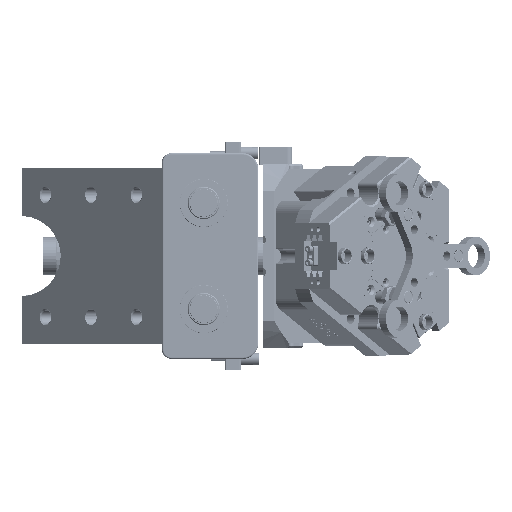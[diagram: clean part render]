
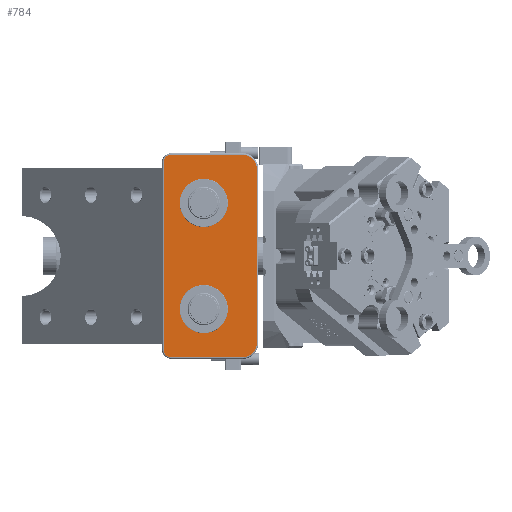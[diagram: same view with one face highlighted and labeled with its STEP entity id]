
A CAD part, left-side view. The second image highlights one B-rep face of the part: STEP entity #784.
In plain terms, the highlighted planar face has unit normal (-1, 0, 0) as drawn and (0, -1, 0) by its records, which use the part's own axes.
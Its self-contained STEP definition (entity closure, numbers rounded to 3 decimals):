
#618 = CIRCLE ( 'NONE', #10359, 9.25 ) ;
#784 = ADVANCED_FACE ( 'NONE', ( #68631, #60555, #48480 ), #72237, .T. ) ;
#1271 = DIRECTION ( 'NONE',  ( 0., 0., -1. ) ) ;
#1536 = AXIS2_PLACEMENT_3D ( 'NONE', #102858, #51679, #1271 ) ;
#2298 = LINE ( 'NONE', #12773, #94531 ) ;
#2662 = CARTESIAN_POINT ( 'NONE',  ( -33., 0., 4. ) ) ;
#3381 = DIRECTION ( 'NONE',  ( 0., -1., 0. ) ) ;
#5032 = AXIS2_PLACEMENT_3D ( 'NONE', #2662, #3381, #80381 ) ;
#5683 = CARTESIAN_POINT ( 'NONE',  ( 58., 0., 24. ) ) ;
#6002 = CARTESIAN_POINT ( 'NONE',  ( -54., 0., -20. ) ) ;
#9358 = CARTESIAN_POINT ( 'NONE',  ( 58., 0., 29. ) ) ;
#9387 = AXIS2_PLACEMENT_3D ( 'NONE', #89140, #45787, #97355 ) ;
#10359 = AXIS2_PLACEMENT_3D ( 'NONE', #97809, #88163, #106825 ) ;
#12242 = ORIENTED_EDGE ( 'NONE', *, *, #24509, .F. ) ;
#12773 = CARTESIAN_POINT ( 'NONE',  ( 63., 0., 24. ) ) ;
#13001 = ORIENTED_EDGE ( 'NONE', *, *, #96869, .F. ) ;
#13235 = CARTESIAN_POINT ( 'NONE',  ( -54., 0., -29. ) ) ;
#14054 = EDGE_CURVE ( 'NONE', #32267, #90530, #31531, .T. ) ;
#18509 = VECTOR ( 'NONE', #26104, 1000. ) ;
#21263 = ORIENTED_EDGE ( 'NONE', *, *, #75825, .T. ) ;
#22146 = CARTESIAN_POINT ( 'NONE',  ( 0., 0., -29. ) ) ;
#22735 = CARTESIAN_POINT ( 'NONE',  ( -33., 0., 4. ) ) ;
#23212 = DIRECTION ( 'NONE',  ( 0., 0., -1. ) ) ;
#24191 = EDGE_LOOP ( 'NONE', ( #54089, #21263, #32059, #81506, #97200, #60020, #102775, #91470 ) ) ;
#24509 = EDGE_CURVE ( 'NONE', #107817, #55423, #26430, .T. ) ;
#25443 = CIRCLE ( 'NONE', #37482, 5. ) ;
#26104 = DIRECTION ( 'NONE',  ( -1., 0., 0. ) ) ;
#26430 = CIRCLE ( 'NONE', #1536, 9.25 ) ;
#26623 = LINE ( 'NONE', #22146, #46616 ) ;
#27574 = CARTESIAN_POINT ( 'NONE',  ( -63., 0., 0. ) ) ;
#31393 = DIRECTION ( 'NONE',  ( 0., 0., -1. ) ) ;
#31531 = CIRCLE ( 'NONE', #88021, 9. ) ;
#32059 = ORIENTED_EDGE ( 'NONE', *, *, #36820, .T. ) ;
#32267 = VERTEX_POINT ( 'NONE', #101487 ) ;
#32920 = AXIS2_PLACEMENT_3D ( 'NONE', #89407, #49745, #32993 ) ;
#32993 = DIRECTION ( 'NONE',  ( 0., 0., -1. ) ) ;
#36820 = EDGE_CURVE ( 'NONE', #38975, #32267, #47558, .T. ) ;
#37482 = AXIS2_PLACEMENT_3D ( 'NONE', #81335, #64129, #72028 ) ;
#37744 = VERTEX_POINT ( 'NONE', #110374 ) ;
#37858 = DIRECTION ( 'NONE',  ( 0., 0., 1. ) ) ;
#38975 = VERTEX_POINT ( 'NONE', #103628 ) ;
#40005 = DIRECTION ( 'NONE',  ( 0., -1., 0. ) ) ;
#45582 = EDGE_CURVE ( 'NONE', #71399, #46023, #90638, .T. ) ;
#45787 = DIRECTION ( 'NONE',  ( 0., -1., 0. ) ) ;
#46023 = VERTEX_POINT ( 'NONE', #106013 ) ;
#46411 = VERTEX_POINT ( 'NONE', #67485 ) ;
#46616 = VECTOR ( 'NONE', #81985, 1000. ) ;
#46645 = EDGE_CURVE ( 'NONE', #109567, #46411, #2298, .T. ) ;
#47558 = LINE ( 'NONE', #27574, #74336 ) ;
#47696 = EDGE_CURVE ( 'NONE', #37744, #109567, #78329, .T. ) ;
#48480 = FACE_BOUND ( 'NONE', #103026, .T. ) ;
#49745 = DIRECTION ( 'NONE',  ( 0., -1., 0. ) ) ;
#51679 = DIRECTION ( 'NONE',  ( 0., -1., 0. ) ) ;
#54058 = DIRECTION ( 'NONE',  ( 0., 0., -1. ) ) ;
#54089 = ORIENTED_EDGE ( 'NONE', *, *, #45582, .T. ) ;
#54218 = ORIENTED_EDGE ( 'NONE', *, *, #96736, .F. ) ;
#55423 = VERTEX_POINT ( 'NONE', #100986 ) ;
#55803 = CARTESIAN_POINT ( 'NONE',  ( 63., 0., -20. ) ) ;
#56800 = DIRECTION ( 'NONE',  ( 0., 0., -1. ) ) ;
#60020 = ORIENTED_EDGE ( 'NONE', *, *, #47696, .T. ) ;
#60555 = FACE_BOUND ( 'NONE', #78113, .T. ) ;
#64107 = EDGE_CURVE ( 'NONE', #90530, #37744, #26623, .T. ) ;
#64129 = DIRECTION ( 'NONE',  ( 0., -1., 0. ) ) ;
#67485 = CARTESIAN_POINT ( 'NONE',  ( 63., 0., 24. ) ) ;
#68631 = FACE_OUTER_BOUND ( 'NONE', #24191, .T. ) ;
#71399 = VERTEX_POINT ( 'NONE', #9358 ) ;
#72028 = DIRECTION ( 'NONE',  ( 0., 0., -1. ) ) ;
#72237 = PLANE ( 'NONE',  #32920 ) ;
#74336 = VECTOR ( 'NONE', #54058, 1000. ) ;
#75637 = VERTEX_POINT ( 'NONE', #93403 ) ;
#75825 = EDGE_CURVE ( 'NONE', #46023, #38975, #25443, .T. ) ;
#77331 = CARTESIAN_POINT ( 'NONE',  ( -58., 0., 29. ) ) ;
#78113 = EDGE_LOOP ( 'NONE', ( #12242, #95121 ) ) ;
#78329 = CIRCLE ( 'NONE', #9387, 9. ) ;
#80381 = DIRECTION ( 'NONE',  ( 0., 0., -1. ) ) ;
#80647 = CIRCLE ( 'NONE', #5032, 9.25 ) ;
#81335 = CARTESIAN_POINT ( 'NONE',  ( -58., 0., 24. ) ) ;
#81506 = ORIENTED_EDGE ( 'NONE', *, *, #14054, .T. ) ;
#81985 = DIRECTION ( 'NONE',  ( 1., 0., 0. ) ) ;
#83706 = VERTEX_POINT ( 'NONE', #108730 ) ;
#84499 = CARTESIAN_POINT ( 'NONE',  ( 33., 0., -5.25 ) ) ;
#85646 = AXIS2_PLACEMENT_3D ( 'NONE', #5683, #99801, #23212 ) ;
#88021 = AXIS2_PLACEMENT_3D ( 'NONE', #6002, #40005, #56800 ) ;
#88163 = DIRECTION ( 'NONE',  ( 0., -1., 0. ) ) ;
#89140 = CARTESIAN_POINT ( 'NONE',  ( 54., 0., -20. ) ) ;
#89222 = EDGE_CURVE ( 'NONE', #46411, #71399, #110810, .T. ) ;
#89407 = CARTESIAN_POINT ( 'NONE',  ( 0., 0., 0. ) ) ;
#90530 = VERTEX_POINT ( 'NONE', #13235 ) ;
#90638 = LINE ( 'NONE', #77331, #18509 ) ;
#90779 = DIRECTION ( 'NONE',  ( 0., -1., 0. ) ) ;
#91470 = ORIENTED_EDGE ( 'NONE', *, *, #89222, .T. ) ;
#93403 = CARTESIAN_POINT ( 'NONE',  ( -33., 0., 13.25 ) ) ;
#94531 = VECTOR ( 'NONE', #37858, 1000. ) ;
#95121 = ORIENTED_EDGE ( 'NONE', *, *, #108987, .F. ) ;
#95246 = AXIS2_PLACEMENT_3D ( 'NONE', #22735, #90779, #31393 ) ;
#96736 = EDGE_CURVE ( 'NONE', #83706, #75637, #80647, .T. ) ;
#96869 = EDGE_CURVE ( 'NONE', #75637, #83706, #110073, .T. ) ;
#97200 = ORIENTED_EDGE ( 'NONE', *, *, #64107, .T. ) ;
#97355 = DIRECTION ( 'NONE',  ( 0., 0., -1. ) ) ;
#97809 = CARTESIAN_POINT ( 'NONE',  ( 33., 0., 4. ) ) ;
#99801 = DIRECTION ( 'NONE',  ( 0., -1., 0. ) ) ;
#100986 = CARTESIAN_POINT ( 'NONE',  ( 33., 0., 13.25 ) ) ;
#101487 = CARTESIAN_POINT ( 'NONE',  ( -63., 0., -20. ) ) ;
#102775 = ORIENTED_EDGE ( 'NONE', *, *, #46645, .T. ) ;
#102858 = CARTESIAN_POINT ( 'NONE',  ( 33., 0., 4. ) ) ;
#103026 = EDGE_LOOP ( 'NONE', ( #54218, #13001 ) ) ;
#103628 = CARTESIAN_POINT ( 'NONE',  ( -63., 0., 24. ) ) ;
#106013 = CARTESIAN_POINT ( 'NONE',  ( -58., 0., 29. ) ) ;
#106825 = DIRECTION ( 'NONE',  ( 0., 0., -1. ) ) ;
#107817 = VERTEX_POINT ( 'NONE', #84499 ) ;
#108730 = CARTESIAN_POINT ( 'NONE',  ( -33., 0., -5.25 ) ) ;
#108987 = EDGE_CURVE ( 'NONE', #55423, #107817, #618, .T. ) ;
#109567 = VERTEX_POINT ( 'NONE', #55803 ) ;
#110073 = CIRCLE ( 'NONE', #95246, 9.25 ) ;
#110374 = CARTESIAN_POINT ( 'NONE',  ( 54., 0., -29. ) ) ;
#110810 = CIRCLE ( 'NONE', #85646, 5. ) ;
